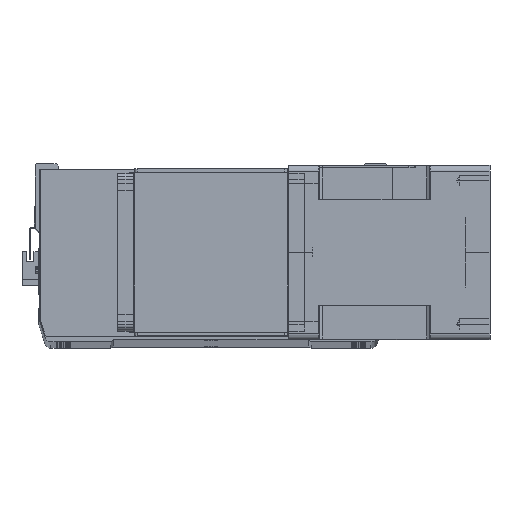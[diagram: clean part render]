
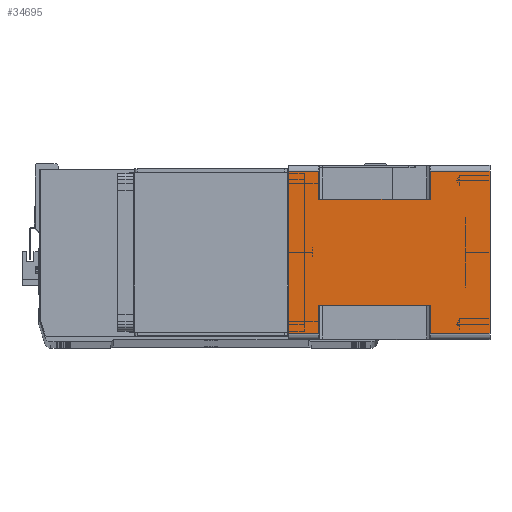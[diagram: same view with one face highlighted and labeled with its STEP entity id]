
A CAD part, top view. The second image highlights one B-rep face of the part: STEP entity #34695.
In plain terms, the highlighted planar face has unit normal (0, 0, 1) as drawn and (1, 0, 0) by its records, which use the part's own axes.
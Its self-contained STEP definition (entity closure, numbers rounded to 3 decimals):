
#510 = CARTESIAN_POINT ( 'NONE',  ( 71., -66., -115.5 ) ) ;
#831 = EDGE_CURVE ( 'NONE', #11659, #8407, #22600, .T. ) ;
#838 = LINE ( 'NONE', #3280, #16925 ) ;
#1713 = LINE ( 'NONE', #17055, #28780 ) ;
#1932 = CARTESIAN_POINT ( 'NONE',  ( 71., 66., -164. ) ) ;
#2033 = CARTESIAN_POINT ( 'NONE',  ( 71., 43., -164. ) ) ;
#2054 = EDGE_CURVE ( 'NONE', #13871, #24344, #838, .T. ) ;
#3280 = CARTESIAN_POINT ( 'NONE',  ( 71., 66., -164. ) ) ;
#3694 = DIRECTION ( 'NONE',  ( 0., -1., 0. ) ) ;
#3913 = EDGE_CURVE ( 'NONE', #17586, #8407, #4049, .T. ) ;
#3948 = VECTOR ( 'NONE', #23678, 1000. ) ;
#4049 = LINE ( 'NONE', #510, #16725 ) ;
#4215 = CARTESIAN_POINT ( 'NONE',  ( 71., -66., 0. ) ) ;
#4735 = ORIENTED_EDGE ( 'NONE', *, *, #2054, .T. ) ;
#4953 = VERTEX_POINT ( 'NONE', #11841 ) ;
#5121 = CARTESIAN_POINT ( 'NONE',  ( 71., 66., -24.5 ) ) ;
#5382 = VERTEX_POINT ( 'NONE', #10819 ) ;
#5537 = PLANE ( 'NONE',  #23478 ) ;
#5752 = DIRECTION ( 'NONE',  ( 0., -1., 0. ) ) ;
#6827 = VERTEX_POINT ( 'NONE', #33107 ) ;
#6844 = VERTEX_POINT ( 'NONE', #19193 ) ;
#7591 = ORIENTED_EDGE ( 'NONE', *, *, #10909, .T. ) ;
#8259 = VECTOR ( 'NONE', #27973, 1000. ) ;
#8407 = VERTEX_POINT ( 'NONE', #18610 ) ;
#8807 = CARTESIAN_POINT ( 'NONE',  ( 71., 66., 0. ) ) ;
#9307 = ORIENTED_EDGE ( 'NONE', *, *, #26471, .T. ) ;
#9776 = CARTESIAN_POINT ( 'NONE',  ( 71., -66., -24.5 ) ) ;
#10257 = CARTESIAN_POINT ( 'NONE',  ( 71., -43., -164. ) ) ;
#10705 = CARTESIAN_POINT ( 'NONE',  ( 71., -66., -164. ) ) ;
#10819 = CARTESIAN_POINT ( 'NONE',  ( 71., -43., -24.5 ) ) ;
#10909 = EDGE_CURVE ( 'NONE', #6827, #5382, #31375, .T. ) ;
#11412 = CARTESIAN_POINT ( 'NONE',  ( 71., -43., -24.5 ) ) ;
#11659 = VERTEX_POINT ( 'NONE', #30624 ) ;
#11841 = CARTESIAN_POINT ( 'NONE',  ( 71., 66., -115.5 ) ) ;
#11934 = CARTESIAN_POINT ( 'NONE',  ( 71., -66., -164. ) ) ;
#12008 = DIRECTION ( 'NONE',  ( 0., 1., 0. ) ) ;
#13028 = ORIENTED_EDGE ( 'NONE', *, *, #19454, .T. ) ;
#13303 = LINE ( 'NONE', #4215, #26748 ) ;
#13398 = ORIENTED_EDGE ( 'NONE', *, *, #20176, .F. ) ;
#13871 = VERTEX_POINT ( 'NONE', #5121 ) ;
#13911 = VECTOR ( 'NONE', #34367, 1000. ) ;
#14749 = LINE ( 'NONE', #10257, #13911 ) ;
#14968 = LINE ( 'NONE', #2033, #27616 ) ;
#15149 = EDGE_CURVE ( 'NONE', #4953, #17588, #1713, .T. ) ;
#15359 = LINE ( 'NONE', #26123, #3948 ) ;
#15416 = CARTESIAN_POINT ( 'NONE',  ( 71., -66., -164. ) ) ;
#15534 = DIRECTION ( 'NONE',  ( 0., 0., 1. ) ) ;
#16565 = VERTEX_POINT ( 'NONE', #1932 ) ;
#16725 = VECTOR ( 'NONE', #5752, 1000. ) ;
#16925 = VECTOR ( 'NONE', #30482, 1000. ) ;
#17055 = CARTESIAN_POINT ( 'NONE',  ( 71., 43., -115.5 ) ) ;
#17179 = DIRECTION ( 'NONE',  ( 0., 1., 0. ) ) ;
#17586 = VERTEX_POINT ( 'NONE', #20988 ) ;
#17588 = VERTEX_POINT ( 'NONE', #31643 ) ;
#18030 = ORIENTED_EDGE ( 'NONE', *, *, #32524, .F. ) ;
#18455 = DIRECTION ( 'NONE',  ( 0., 0., -1. ) ) ;
#18610 = CARTESIAN_POINT ( 'NONE',  ( 71., -66., -115.5 ) ) ;
#19193 = CARTESIAN_POINT ( 'NONE',  ( 71., -66., 0. ) ) ;
#19450 = EDGE_LOOP ( 'NONE', ( #18030, #28665, #29455, #20750, #9307, #31696, #13398, #13028, #4735, #27367, #33706, #7591 ) ) ;
#19454 = EDGE_CURVE ( 'NONE', #30616, #13871, #29310, .T. ) ;
#19505 = EDGE_CURVE ( 'NONE', #6827, #6844, #15359, .T. ) ;
#19917 = DIRECTION ( 'NONE',  ( 1., 0., 0. ) ) ;
#20110 = VECTOR ( 'NONE', #33988, 1000. ) ;
#20176 = EDGE_CURVE ( 'NONE', #30616, #17588, #14968, .T. ) ;
#20512 = VECTOR ( 'NONE', #15534, 1000. ) ;
#20626 = CARTESIAN_POINT ( 'NONE',  ( 71., 66., -164. ) ) ;
#20750 = ORIENTED_EDGE ( 'NONE', *, *, #26413, .T. ) ;
#20988 = CARTESIAN_POINT ( 'NONE',  ( 71., -43., -115.5 ) ) ;
#21710 = VECTOR ( 'NONE', #33521, 1000. ) ;
#21854 = CARTESIAN_POINT ( 'NONE',  ( 71., 43., -24.5 ) ) ;
#22360 = DIRECTION ( 'NONE',  ( 0., 1., 0. ) ) ;
#22600 = LINE ( 'NONE', #11934, #8259 ) ;
#23478 = AXIS2_PLACEMENT_3D ( 'NONE', #10705, #19917, #17179 ) ;
#23678 = DIRECTION ( 'NONE',  ( 0., 0., 1. ) ) ;
#24344 = VERTEX_POINT ( 'NONE', #8807 ) ;
#24587 = VECTOR ( 'NONE', #22360, 1000. ) ;
#26123 = CARTESIAN_POINT ( 'NONE',  ( 71., -66., -164. ) ) ;
#26413 = EDGE_CURVE ( 'NONE', #11659, #16565, #34886, .T. ) ;
#26471 = EDGE_CURVE ( 'NONE', #16565, #4953, #27208, .T. ) ;
#26748 = VECTOR ( 'NONE', #12008, 1000. ) ;
#27208 = LINE ( 'NONE', #20626, #20512 ) ;
#27367 = ORIENTED_EDGE ( 'NONE', *, *, #29634, .F. ) ;
#27616 = VECTOR ( 'NONE', #18455, 1000. ) ;
#27973 = DIRECTION ( 'NONE',  ( 0., 0., 1. ) ) ;
#28438 = FACE_OUTER_BOUND ( 'NONE', #19450, .T. ) ;
#28665 = ORIENTED_EDGE ( 'NONE', *, *, #3913, .T. ) ;
#28780 = VECTOR ( 'NONE', #3694, 1000. ) ;
#29310 = LINE ( 'NONE', #9776, #21710 ) ;
#29455 = ORIENTED_EDGE ( 'NONE', *, *, #831, .F. ) ;
#29634 = EDGE_CURVE ( 'NONE', #6844, #24344, #13303, .T. ) ;
#30482 = DIRECTION ( 'NONE',  ( 0., 0., 1. ) ) ;
#30616 = VERTEX_POINT ( 'NONE', #21854 ) ;
#30624 = CARTESIAN_POINT ( 'NONE',  ( 71., -66., -164. ) ) ;
#31375 = LINE ( 'NONE', #11412, #24587 ) ;
#31643 = CARTESIAN_POINT ( 'NONE',  ( 71., 43., -115.5 ) ) ;
#31696 = ORIENTED_EDGE ( 'NONE', *, *, #15149, .T. ) ;
#32524 = EDGE_CURVE ( 'NONE', #17586, #5382, #14749, .T. ) ;
#33107 = CARTESIAN_POINT ( 'NONE',  ( 71., -66., -24.5 ) ) ;
#33521 = DIRECTION ( 'NONE',  ( 0., 1., 0. ) ) ;
#33706 = ORIENTED_EDGE ( 'NONE', *, *, #19505, .F. ) ;
#33988 = DIRECTION ( 'NONE',  ( 0., 1., 0. ) ) ;
#34367 = DIRECTION ( 'NONE',  ( 0., 0., 1. ) ) ;
#34695 = ADVANCED_FACE ( 'NONE', ( #28438 ), #5537, .T. ) ;
#34886 = LINE ( 'NONE', #15416, #20110 ) ;
